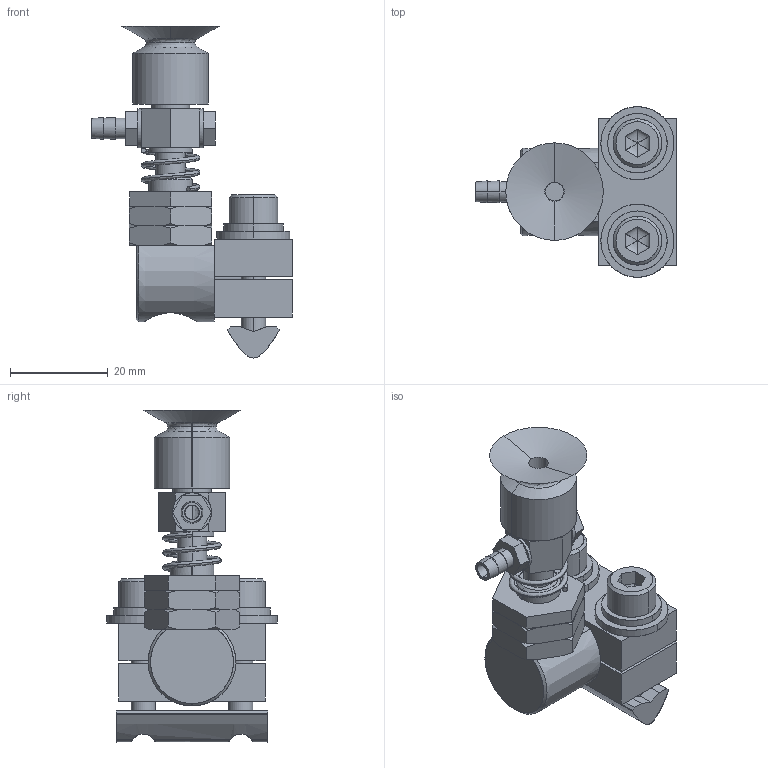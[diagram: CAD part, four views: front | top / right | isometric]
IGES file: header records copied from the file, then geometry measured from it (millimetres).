
Start section: SolidWorks IGES file using analytic representation for surfaces
Global section: file name: E:\EFCKishi\‹z’…\LSM\IGES\LSM-001.IGS; native system: SolidWorks 2006 by SolidWorks Corporation; preprocessor: SolidWorks 2006 by SolidWorks Corporation; author: CAD58; date: 080913.170736; units: millimetre
Bounding box: 41.2 x 35 x 68.1 mm (x, y, z)
Surface area: 15089.3 mm2 (no closed solid volume)
Topology: 0 solids, 0 shells, 283 faces, 3505 edges, 3489 vertices
Faces by surface type: bspline 155, revolution 128
